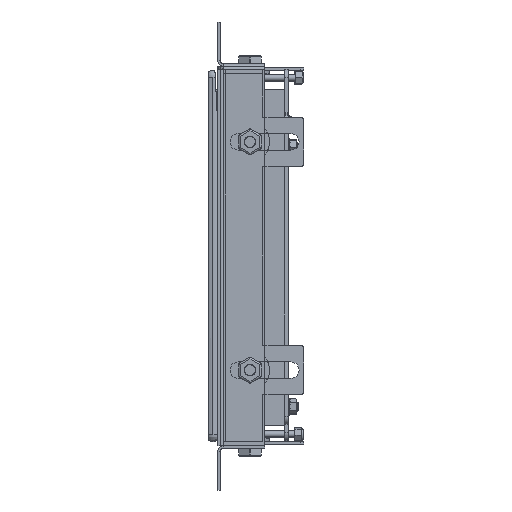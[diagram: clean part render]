
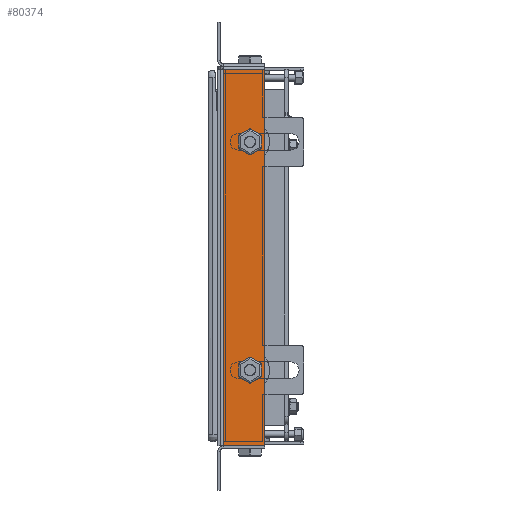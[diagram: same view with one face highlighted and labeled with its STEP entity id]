
A CAD part, left-side view. The second image highlights one B-rep face of the part: STEP entity #80374.
In plain terms, the highlighted planar face has unit normal (-1, 0, 0).
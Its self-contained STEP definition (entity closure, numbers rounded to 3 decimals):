
#709 = CARTESIAN_POINT ( 'NONE',  ( -348., -19.5, 74.764 ) ) ;
#1046 = ORIENTED_EDGE ( 'NONE', *, *, #72631, .T. ) ;
#1347 = VECTOR ( 'NONE', #67156, 1000. ) ;
#1655 = VERTEX_POINT ( 'NONE', #5546 ) ;
#3898 = VECTOR ( 'NONE', #70822, 1000. ) ;
#4236 = ORIENTED_EDGE ( 'NONE', *, *, #69246, .F. ) ;
#4465 = CARTESIAN_POINT ( 'NONE',  ( -348., -24.575, 77.694 ) ) ;
#5225 = LINE ( 'NONE', #6149, #74345 ) ;
#5242 = VERTEX_POINT ( 'NONE', #13573 ) ;
#5546 = CARTESIAN_POINT ( 'NONE',  ( -348., -12.8, 86.368 ) ) ;
#6069 = EDGE_CURVE ( 'NONE', #1655, #30283, #70443, .T. ) ;
#6149 = CARTESIAN_POINT ( 'NONE',  ( -348., -3.5, -102.5 ) ) ;
#6561 = CARTESIAN_POINT ( 'NONE',  ( -348., -17.875, 75.702 ) ) ;
#7648 = VECTOR ( 'NONE', #70136, 1000. ) ;
#8089 = VECTOR ( 'NONE', #69117, 1000. ) ;
#8320 = EDGE_CURVE ( 'NONE', #15064, #28396, #5225, .T. ) ;
#8612 = VECTOR ( 'NONE', #9958, 1000. ) ;
#9345 = CARTESIAN_POINT ( 'NONE',  ( -348., -3.5, -102.5 ) ) ;
#9489 = DIRECTION ( 'NONE',  ( 0., 0., 1. ) ) ;
#9526 = LINE ( 'NONE', #6561, #76427 ) ;
#9958 = DIRECTION ( 'NONE',  ( 0., -0.866, 0.5 ) ) ;
#10270 = LINE ( 'NONE', #62193, #8089 ) ;
#10470 = LINE ( 'NONE', #76795, #82709 ) ;
#10613 = VECTOR ( 'NONE', #52386, 1000. ) ;
#10728 = CARTESIAN_POINT ( 'NONE',  ( -348., -17.875, -63.298 ) ) ;
#11246 = ORIENTED_EDGE ( 'NONE', *, *, #21139, .F. ) ;
#11416 = VECTOR ( 'NONE', #70352, 1000. ) ;
#11586 = ORIENTED_EDGE ( 'NONE', *, *, #42315, .F. ) ;
#12052 = CARTESIAN_POINT ( 'NONE',  ( -348., -19.5, -64.236 ) ) ;
#12155 = CARTESIAN_POINT ( 'NONE',  ( -348., -28.5, -102.5 ) ) ;
#12305 = EDGE_CURVE ( 'NONE', #68814, #19291, #32660, .T. ) ;
#13573 = CARTESIAN_POINT ( 'NONE',  ( -348., -12.8, -60.368 ) ) ;
#14697 = DIRECTION ( 'NONE',  ( 0., -0.866, -0.5 ) ) ;
#15064 = VERTEX_POINT ( 'NONE', #9345 ) ;
#16653 = VERTEX_POINT ( 'NONE', #52463 ) ;
#16993 = ORIENTED_EDGE ( 'NONE', *, *, #41529, .F. ) ;
#18482 = EDGE_CURVE ( 'NONE', #52570, #5242, #42770, .T. ) ;
#18948 = EDGE_CURVE ( 'NONE', #60169, #21699, #10270, .T. ) ;
#19291 = VERTEX_POINT ( 'NONE', #57033 ) ;
#19825 = LINE ( 'NONE', #53677, #37147 ) ;
#21139 = EDGE_CURVE ( 'NONE', #21699, #87706, #67093, .T. ) ;
#21699 = VERTEX_POINT ( 'NONE', #28927 ) ;
#21837 = VECTOR ( 'NONE', #9489, 1000. ) ;
#24122 = VECTOR ( 'NONE', #58955, 1000. ) ;
#24920 = VECTOR ( 'NONE', #28514, 1000. ) ;
#25138 = ORIENTED_EDGE ( 'NONE', *, *, #60940, .F. ) ;
#28314 = PLANE ( 'NONE',  #68409 ) ;
#28396 = VERTEX_POINT ( 'NONE', #35321 ) ;
#28514 = DIRECTION ( 'NONE',  ( 0., 0., 1. ) ) ;
#28815 = CARTESIAN_POINT ( 'NONE',  ( -348., -12.8, -58.492 ) ) ;
#28863 = CARTESIAN_POINT ( 'NONE',  ( -348., -26.2, -60.368 ) ) ;
#28927 = CARTESIAN_POINT ( 'NONE',  ( -348., -26.2, -52.632 ) ) ;
#30158 = ORIENTED_EDGE ( 'NONE', *, *, #6069, .F. ) ;
#30283 = VERTEX_POINT ( 'NONE', #37815 ) ;
#31580 = CARTESIAN_POINT ( 'NONE',  ( -348., -24.575, -61.306 ) ) ;
#31854 = EDGE_CURVE ( 'NONE', #5242, #37704, #61851, .T. ) ;
#32660 = LINE ( 'NONE', #83162, #21837 ) ;
#33074 = ORIENTED_EDGE ( 'NONE', *, *, #31854, .F. ) ;
#33350 = CARTESIAN_POINT ( 'NONE',  ( -348., -12.8, 80.508 ) ) ;
#35321 = CARTESIAN_POINT ( 'NONE',  ( -348., -3.5, 126.5 ) ) ;
#35461 = CARTESIAN_POINT ( 'NONE',  ( -348., -12.8, -52.632 ) ) ;
#36549 = CARTESIAN_POINT ( 'NONE',  ( -348., -21.125, 89.298 ) ) ;
#37147 = VECTOR ( 'NONE', #66986, 1000. ) ;
#37704 = VERTEX_POINT ( 'NONE', #12052 ) ;
#37815 = CARTESIAN_POINT ( 'NONE',  ( -348., -12.8, 78.632 ) ) ;
#39520 = CARTESIAN_POINT ( 'NONE',  ( -348., -28.5, -102.5 ) ) ;
#40055 = ORIENTED_EDGE ( 'NONE', *, *, #8320, .F. ) ;
#41529 = EDGE_CURVE ( 'NONE', #16653, #52286, #61597, .T. ) ;
#41575 = DIRECTION ( 'NONE',  ( 1., 0., 0. ) ) ;
#41995 = FACE_BOUND ( 'NONE', #57189, .T. ) ;
#42315 = EDGE_CURVE ( 'NONE', #74666, #16653, #57145, .T. ) ;
#42770 = LINE ( 'NONE', #28815, #71889 ) ;
#42807 = LINE ( 'NONE', #12155, #50304 ) ;
#42909 = CARTESIAN_POINT ( 'NONE',  ( -348., -19.5, -48.764 ) ) ;
#43530 = EDGE_CURVE ( 'NONE', #87706, #52570, #85958, .T. ) ;
#45949 = VERTEX_POINT ( 'NONE', #70954 ) ;
#47522 = DIRECTION ( 'NONE',  ( 0., 0., 1. ) ) ;
#47754 = ORIENTED_EDGE ( 'NONE', *, *, #18948, .F. ) ;
#47809 = EDGE_LOOP ( 'NONE', ( #11586, #68828, #30158, #25138, #56845, #16993 ) ) ;
#48132 = CARTESIAN_POINT ( 'NONE',  ( -348., -26.2, 84.492 ) ) ;
#48478 = FACE_OUTER_BOUND ( 'NONE', #66848, .T. ) ;
#48882 = ORIENTED_EDGE ( 'NONE', *, *, #56672, .T. ) ;
#49053 = DIRECTION ( 'NONE',  ( 0., 0.866, -0.5 ) ) ;
#50304 = VECTOR ( 'NONE', #60700, 1000. ) ;
#51349 = EDGE_CURVE ( 'NONE', #30283, #74666, #9526, .T. ) ;
#52286 = VERTEX_POINT ( 'NONE', #87962 ) ;
#52386 = DIRECTION ( 'NONE',  ( 0., -0.866, 0.5 ) ) ;
#52463 = CARTESIAN_POINT ( 'NONE',  ( -348., -26.2, 78.632 ) ) ;
#52570 = VERTEX_POINT ( 'NONE', #35461 ) ;
#53677 = CARTESIAN_POINT ( 'NONE',  ( -348., -1.5, 126.5 ) ) ;
#56672 = EDGE_CURVE ( 'NONE', #19291, #28396, #19825, .T. ) ;
#56845 = ORIENTED_EDGE ( 'NONE', *, *, #83577, .F. ) ;
#57033 = CARTESIAN_POINT ( 'NONE',  ( -348., -28.5, 126.5 ) ) ;
#57145 = LINE ( 'NONE', #4465, #8612 ) ;
#57189 = EDGE_LOOP ( 'NONE', ( #33074, #73071, #81087, #11246, #47754, #4236 ) ) ;
#58955 = DIRECTION ( 'NONE',  ( 0., -0.866, -0.5 ) ) ;
#60169 = VERTEX_POINT ( 'NONE', #28863 ) ;
#60700 = DIRECTION ( 'NONE',  ( 0., -1., 0. ) ) ;
#60940 = EDGE_CURVE ( 'NONE', #45949, #1655, #10470, .T. ) ;
#61597 = LINE ( 'NONE', #48132, #24920 ) ;
#61851 = LINE ( 'NONE', #10728, #24122 ) ;
#62193 = CARTESIAN_POINT ( 'NONE',  ( -348., -26.2, -54.508 ) ) ;
#62688 = CARTESIAN_POINT ( 'NONE',  ( -348., -1.5, 126.5 ) ) ;
#65678 = LINE ( 'NONE', #31580, #10613 ) ;
#66848 = EDGE_LOOP ( 'NONE', ( #40055, #1046, #78134, #48882 ) ) ;
#66851 = FACE_BOUND ( 'NONE', #47809, .T. ) ;
#66986 = DIRECTION ( 'NONE',  ( 0., 1., 0. ) ) ;
#67093 = LINE ( 'NONE', #69853, #7648 ) ;
#67156 = DIRECTION ( 'NONE',  ( 0., 0., -1. ) ) ;
#68409 = AXIS2_PLACEMENT_3D ( 'NONE', #62688, #41575, #75661 ) ;
#68814 = VERTEX_POINT ( 'NONE', #39520 ) ;
#68828 = ORIENTED_EDGE ( 'NONE', *, *, #51349, .F. ) ;
#69117 = DIRECTION ( 'NONE',  ( 0., 0., 1. ) ) ;
#69246 = EDGE_CURVE ( 'NONE', #37704, #60169, #65678, .T. ) ;
#69853 = CARTESIAN_POINT ( 'NONE',  ( -348., -21.125, -49.702 ) ) ;
#70136 = DIRECTION ( 'NONE',  ( 0., 0.866, 0.5 ) ) ;
#70352 = DIRECTION ( 'NONE',  ( 0., 0.866, 0.5 ) ) ;
#70443 = LINE ( 'NONE', #33350, #1347 ) ;
#70822 = DIRECTION ( 'NONE',  ( 0., 0.866, -0.5 ) ) ;
#70954 = CARTESIAN_POINT ( 'NONE',  ( -348., -19.5, 90.236 ) ) ;
#71889 = VECTOR ( 'NONE', #84854, 1000. ) ;
#72631 = EDGE_CURVE ( 'NONE', #15064, #68814, #42807, .T. ) ;
#73071 = ORIENTED_EDGE ( 'NONE', *, *, #18482, .F. ) ;
#74087 = LINE ( 'NONE', #36549, #11416 ) ;
#74345 = VECTOR ( 'NONE', #47522, 1000. ) ;
#74666 = VERTEX_POINT ( 'NONE', #709 ) ;
#75661 = DIRECTION ( 'NONE',  ( 0., 1., 0. ) ) ;
#76427 = VECTOR ( 'NONE', #14697, 1000. ) ;
#76795 = CARTESIAN_POINT ( 'NONE',  ( -348., -14.425, 87.306 ) ) ;
#78075 = CARTESIAN_POINT ( 'NONE',  ( -348., -14.425, -51.694 ) ) ;
#78134 = ORIENTED_EDGE ( 'NONE', *, *, #12305, .T. ) ;
#80374 = ADVANCED_FACE ( 'NONE', ( #66851, #41995, #48478 ), #28314, .F. ) ;
#81087 = ORIENTED_EDGE ( 'NONE', *, *, #43530, .F. ) ;
#82709 = VECTOR ( 'NONE', #49053, 1000. ) ;
#83162 = CARTESIAN_POINT ( 'NONE',  ( -348., -28.5, 126.5 ) ) ;
#83577 = EDGE_CURVE ( 'NONE', #52286, #45949, #74087, .T. ) ;
#84854 = DIRECTION ( 'NONE',  ( 0., 0., -1. ) ) ;
#85958 = LINE ( 'NONE', #78075, #3898 ) ;
#87706 = VERTEX_POINT ( 'NONE', #42909 ) ;
#87962 = CARTESIAN_POINT ( 'NONE',  ( -348., -26.2, 86.368 ) ) ;
